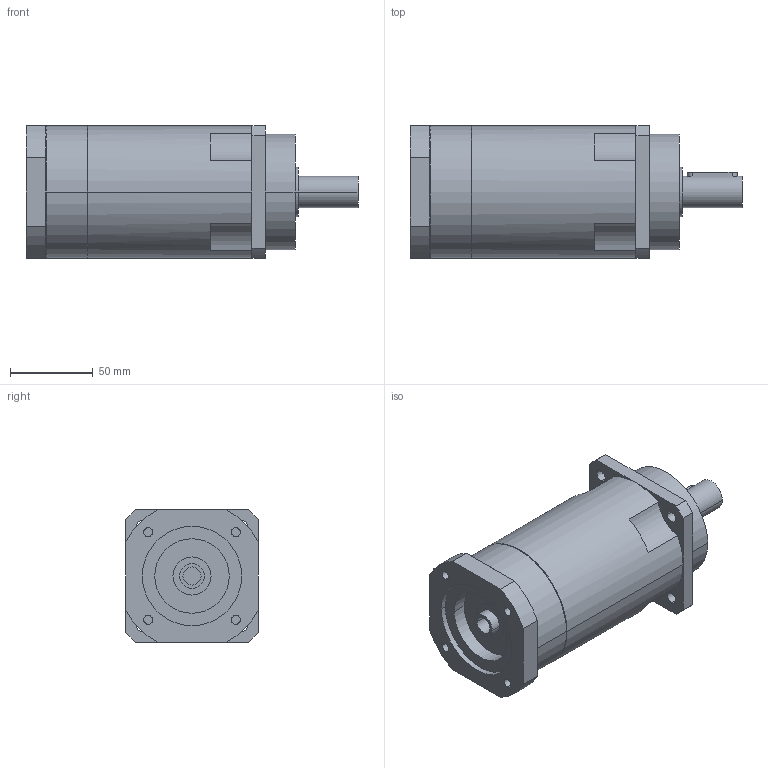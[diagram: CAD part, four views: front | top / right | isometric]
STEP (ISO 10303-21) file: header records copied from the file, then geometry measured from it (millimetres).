
FILE_DESCRIPTION(('CoCreate Modeling STEP Export'),'2;1');
FILE_NAME('GPR100_ig-48-64-80-100-120-144-180-216_19_B5_11_P03.stp','2014-08-26T11:53:19',(''),(''),'CoCreate Modeling STEP processor for AP214 (Solid Model)','CoCreate Modeling 16.00C 25-Feb-2009 (C) Parametric Technology GmbH','');
FILE_SCHEMA(('AUTOMOTIVE_DESIGN { 1 0 10303 214 1 1 1 1 }'));
Length unit declared in the file: millimetre
Products named in the file (2): GPR100_ig-48-64-80-100-120-144-180-216_19_B5_11_P03
Assembly tree (1 placements, depth 2):
  GPR100_ig-48-64-80-100-120-144-180-216_19_B5_11_P03
    GPR100_ig-48-64-80-100-120-144-180-216_19_B5_11_P03
Bounding box: 200.4 x 80 x 80 mm (x, y, z)
Volume: 790577.6 mm3; surface area: 63497.3 mm2
Topology: 1 solids, 1 shells, 105 faces, 299 edges, 205 vertices
Faces by surface type: cylinder 60, plane 39, cone 6
Entity records: 3145 total; most frequent: CARTESIAN_POINT 643, ORIENTED_EDGE 594, DIRECTION 436, EDGE_CURVE 297, VERTEX_POINT 205, AXIS2_PLACEMENT_3D 166, EDGE_LOOP 132, FACE_OUTER_BOUND 105
